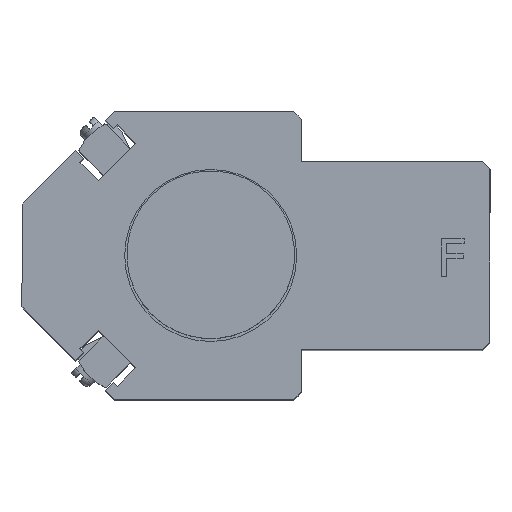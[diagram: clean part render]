
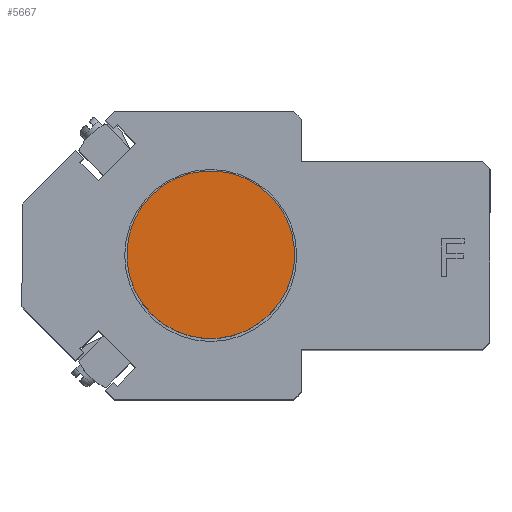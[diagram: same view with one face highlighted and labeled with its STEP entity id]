
A CAD part, top view. The second image highlights one B-rep face of the part: STEP entity #5667.
In plain terms, the highlighted planar face has unit normal (0, 0, 1) as drawn and (1, 0, 0) by its records, which use the part's own axes.
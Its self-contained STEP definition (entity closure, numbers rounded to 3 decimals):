
#477=PLANE('',#6488);
#763=FACE_OUTER_BOUND('',#1097,.T.);
#1097=EDGE_LOOP('',(#5253,#5254));
#2369=CIRCLE('',#6489,11.113);
#2370=CIRCLE('',#6490,11.113);
#2914=VERTEX_POINT('',#9882);
#2915=VERTEX_POINT('',#9883);
#3701=EDGE_CURVE('',#2914,#2915,#2369,.T.);
#3702=EDGE_CURVE('',#2915,#2914,#2370,.T.);
#5253=ORIENTED_EDGE('',*,*,#3701,.F.);
#5254=ORIENTED_EDGE('',*,*,#3702,.F.);
#5667=ADVANCED_FACE('',(#763),#477,.T.);
#6488=AXIS2_PLACEMENT_3D('',#9881,#8103,#8104);
#6489=AXIS2_PLACEMENT_3D('',#9884,#8105,#8106);
#6490=AXIS2_PLACEMENT_3D('',#9885,#8107,#8108);
#8103=DIRECTION('center_axis',(1.,0.,0.));
#8104=DIRECTION('ref_axis',(0.,0.,-1.));
#8105=DIRECTION('center_axis',(-1.,0.,0.));
#8106=DIRECTION('ref_axis',(0.,-1.,0.));
#8107=DIRECTION('center_axis',(-1.,0.,0.));
#8108=DIRECTION('ref_axis',(0.,-1.,0.));
#9881=CARTESIAN_POINT('Origin',(13.,-5.556,0.));
#9882=CARTESIAN_POINT('',(13.,-11.113,0.));
#9883=CARTESIAN_POINT('',(13.,11.113,0.));
#9884=CARTESIAN_POINT('Origin',(13.,0.,0.));
#9885=CARTESIAN_POINT('Origin',(13.,0.,0.));
